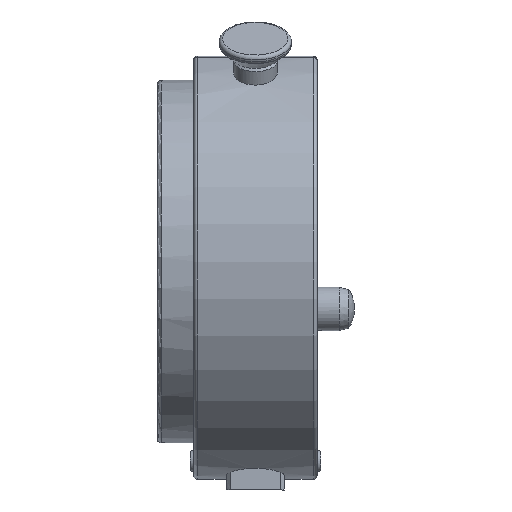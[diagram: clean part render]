
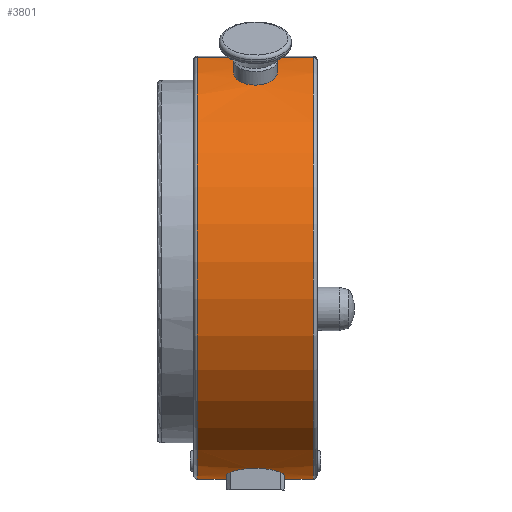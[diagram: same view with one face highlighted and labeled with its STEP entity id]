
A CAD part, left-side view. The second image highlights one B-rep face of the part: STEP entity #3801.
In plain terms, the highlighted cylindrical face has radius 30 mm (diameter 60 mm), a partial arc.
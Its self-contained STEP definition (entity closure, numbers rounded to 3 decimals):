
#158=CARTESIAN_POINT('',(-12.327,16.5,27.351));
#159=VERTEX_POINT('',#158);
#160=CARTESIAN_POINT('',(-12.327,16.5,27.351));
#161=CARTESIAN_POINT('',(-12.327,16.123,27.351));
#162=CARTESIAN_POINT('',(-12.396,15.721,27.32));
#163=CARTESIAN_POINT('',(-12.675,14.982,27.191));
#164=CARTESIAN_POINT('',(-12.885,14.645,27.093));
#165=CARTESIAN_POINT('',(-13.365,14.112,26.86));
#166=CARTESIAN_POINT('',(-13.667,13.882,26.708));
#167=CARTESIAN_POINT('',(-14.322,13.575,26.363));
#168=CARTESIAN_POINT('',(-14.674,13.5,26.169));
#169=CARTESIAN_POINT('',(-15.326,13.5,25.792));
#170=CARTESIAN_POINT('',(-15.671,13.575,25.585));
#171=CARTESIAN_POINT('',(-16.296,13.882,25.19));
#172=CARTESIAN_POINT('',(-16.578,14.112,25.005));
#173=CARTESIAN_POINT('',(-17.021,14.645,24.706));
#174=CARTESIAN_POINT('',(-17.211,14.982,24.573));
#175=CARTESIAN_POINT('',(-17.462,15.721,24.395));
#176=CARTESIAN_POINT('',(-17.523,16.123,24.351));
#177=CARTESIAN_POINT('',(-17.523,16.877,24.351));
#178=CARTESIAN_POINT('',(-17.462,17.279,24.395));
#179=CARTESIAN_POINT('',(-17.211,18.018,24.573));
#180=CARTESIAN_POINT('',(-17.021,18.355,24.706));
#181=CARTESIAN_POINT('',(-16.578,18.888,25.005));
#182=CARTESIAN_POINT('',(-16.296,19.118,25.19));
#183=CARTESIAN_POINT('',(-15.671,19.425,25.585));
#184=CARTESIAN_POINT('',(-15.326,19.5,25.792));
#185=CARTESIAN_POINT('',(-14.674,19.5,26.169));
#186=CARTESIAN_POINT('',(-14.322,19.425,26.363));
#187=CARTESIAN_POINT('',(-13.667,19.118,26.708));
#188=CARTESIAN_POINT('',(-13.365,18.888,26.86));
#189=CARTESIAN_POINT('',(-12.885,18.355,27.093));
#190=CARTESIAN_POINT('',(-12.675,18.018,27.191));
#191=CARTESIAN_POINT('',(-12.396,17.279,27.32));
#192=CARTESIAN_POINT('',(-12.327,16.877,27.351));
#193=CARTESIAN_POINT('',(-12.327,16.5,27.351));
#194=B_SPLINE_CURVE_WITH_KNOTS('',3,(#160,#161,#162,#163,#164,#165,#166,#167,#168,#169,#170,#171,#172,#173,#174,#175,#176,#177,#178,#179,#180,#181,#182,#183,#184,#185,#186,#187,#188,#189,#190,#191,#192,#193),.UNSPECIFIED.,.T.,.U.,(4,2,2,2,2,2,2,2,2,2,2,2,2,2,2,2,4),(0.0,0.113,0.226,0.339,0.452,0.565,0.679,0.792,0.905,1.018,1.131,1.244,1.357,1.47,1.583,1.696,1.809),.UNSPECIFIED.);
#195=EDGE_CURVE('',#159,#159,#194,.T.);
#2229=CARTESIAN_POINT('',(-3.4,20.5,-29.807));
#2230=VERTEX_POINT('',#2229);
#2338=CARTESIAN_POINT('',(-3.4,12.5,-29.807));
#2339=VERTEX_POINT('',#2338);
#2472=CARTESIAN_POINT('',(0.,12.5,-30.));
#2473=VERTEX_POINT('',#2472);
#2474=CARTESIAN_POINT('',(0.,12.5,0.));
#2475=DIRECTION('',(0.,1.,0.));
#2476=DIRECTION('',(-0.342,0.,0.94));
#2477=AXIS2_PLACEMENT_3D('',#2474,#2475,#2476);
#2478=CIRCLE('',#2477,30.);
#2479=EDGE_CURVE('',#2473,#2339,#2478,.T.);
#3275=CARTESIAN_POINT('',(0.,20.5,-30.));
#3276=VERTEX_POINT('',#3275);
#3277=CARTESIAN_POINT('',(0.,20.5,0.));
#3278=DIRECTION('',(0.,-1.,0.));
#3279=DIRECTION('',(-0.342,0.,0.94));
#3280=AXIS2_PLACEMENT_3D('',#3277,#3278,#3279);
#3281=CIRCLE('',#3280,30.);
#3282=EDGE_CURVE('',#2230,#3276,#3281,.T.);
#3313=CARTESIAN_POINT('',(0.,8.5,-30.));
#3314=VERTEX_POINT('',#3313);
#3324=CARTESIAN_POINT('',(0.,8.5,-30.));
#3325=DIRECTION('',(0.0,1.0,0.0));
#3326=VECTOR('',#3325,4.0);
#3327=LINE('',#3324,#3326);
#3328=EDGE_CURVE('',#3314,#2473,#3327,.T.);
#3397=CARTESIAN_POINT('',(0.,24.5,-30.));
#3398=VERTEX_POINT('',#3397);
#3413=CARTESIAN_POINT('',(0.,20.5,-30.));
#3414=DIRECTION('',(0.0,1.0,0.0));
#3415=VECTOR('',#3414,4.0);
#3416=LINE('',#3413,#3415);
#3417=EDGE_CURVE('',#3276,#3398,#3416,.T.);
#3428=CARTESIAN_POINT('',(-5.455,12.5,-29.5));
#3429=VERTEX_POINT('',#3428);
#3430=CARTESIAN_POINT('',(0.,12.5,0.));
#3431=DIRECTION('',(0.,-1.,0.));
#3432=DIRECTION('',(-0.342,0.,0.94));
#3433=AXIS2_PLACEMENT_3D('',#3430,#3431,#3432);
#3434=CIRCLE('',#3433,30.);
#3435=EDGE_CURVE('',#3429,#2339,#3434,.T.);
#3485=CARTESIAN_POINT('',(-5.455,20.5,-29.5));
#3486=VERTEX_POINT('',#3485);
#3487=CARTESIAN_POINT('',(-5.455,20.5,-29.5));
#3488=CARTESIAN_POINT('',(-5.949,20.5,-29.409));
#3489=CARTESIAN_POINT('',(-6.474,20.399,-29.297));
#3490=CARTESIAN_POINT('',(-7.433,19.991,-29.069));
#3491=CARTESIAN_POINT('',(-7.869,19.683,-28.952));
#3492=CARTESIAN_POINT('',(-8.554,18.974,-28.757));
#3493=CARTESIAN_POINT('',(-8.85,18.524,-28.666));
#3494=CARTESIAN_POINT('',(-9.243,17.539,-28.541));
#3495=CARTESIAN_POINT('',(-9.339,17.003,-28.509));
#3496=CARTESIAN_POINT('',(-9.339,16.5,-28.509));
#3497=CARTESIAN_POINT('',(-9.339,15.997,-28.509));
#3498=CARTESIAN_POINT('',(-9.243,15.461,-28.541));
#3499=CARTESIAN_POINT('',(-8.85,14.476,-28.666));
#3500=CARTESIAN_POINT('',(-8.554,14.026,-28.757));
#3501=CARTESIAN_POINT('',(-7.869,13.317,-28.952));
#3502=CARTESIAN_POINT('',(-7.433,13.009,-29.069));
#3503=CARTESIAN_POINT('',(-6.474,12.601,-29.297));
#3504=CARTESIAN_POINT('',(-5.949,12.5,-29.409));
#3505=CARTESIAN_POINT('',(-5.455,12.5,-29.5));
#3506=B_SPLINE_CURVE_WITH_KNOTS('',3,(#3487,#3488,#3489,#3490,#3491,#3492,#3493,#3494,#3495,#3496,#3497,#3498,#3499,#3500,#3501,#3502,#3503,#3504,#3505),.UNSPECIFIED.,.F.,.U.,(4,2,2,2,3,2,2,2,4),(1.81,1.961,2.112,2.263,2.414,2.565,2.716,2.866,3.017),.UNSPECIFIED.);
#3507=EDGE_CURVE('',#3486,#3429,#3506,.T.);
#3652=CARTESIAN_POINT('',(-10.261,8.5,28.191));
#3653=VERTEX_POINT('',#3652);
#3661=CARTESIAN_POINT('',(0.,8.5,0.));
#3662=DIRECTION('',(0.,-1.0,0.));
#3663=DIRECTION('',(-0.985,0.,-0.174));
#3664=AXIS2_PLACEMENT_3D('',#3661,#3662,#3663);
#3665=CIRCLE('',#3664,30.);
#3666=EDGE_CURVE('',#3653,#3314,#3665,.T.);
#3762=CARTESIAN_POINT('',(0.,8.0,0.));
#3763=DIRECTION('',(0.,1.0,0.));
#3764=DIRECTION('',(-0.342,0.,0.94));
#3765=AXIS2_PLACEMENT_3D('',#3762,#3763,#3764);
#3766=CYLINDRICAL_SURFACE('',#3765,30.);
#3767=CARTESIAN_POINT('',(-10.261,24.5,28.191));
#3768=VERTEX_POINT('',#3767);
#3769=CARTESIAN_POINT('',(0.,24.5,0.));
#3770=DIRECTION('',(0.,1.0,0.));
#3771=DIRECTION('',(-0.985,0.,-0.174));
#3772=AXIS2_PLACEMENT_3D('',#3769,#3770,#3771);
#3773=CIRCLE('',#3772,30.);
#3774=EDGE_CURVE('',#3398,#3768,#3773,.T.);
#3775=ORIENTED_EDGE('',*,*,#3774,.F.);
#3776=ORIENTED_EDGE('',*,*,#3417,.F.);
#3777=ORIENTED_EDGE('',*,*,#3282,.F.);
#3778=CARTESIAN_POINT('',(0.,20.5,0.));
#3779=DIRECTION('',(0.,1.,0.));
#3780=DIRECTION('',(-0.342,0.,0.94));
#3781=AXIS2_PLACEMENT_3D('',#3778,#3779,#3780);
#3782=CIRCLE('',#3781,30.);
#3783=EDGE_CURVE('',#2230,#3486,#3782,.T.);
#3784=ORIENTED_EDGE('',*,*,#3783,.T.);
#3785=ORIENTED_EDGE('',*,*,#3507,.T.);
#3786=ORIENTED_EDGE('',*,*,#3435,.T.);
#3787=ORIENTED_EDGE('',*,*,#2479,.F.);
#3788=ORIENTED_EDGE('',*,*,#3328,.F.);
#3789=ORIENTED_EDGE('',*,*,#3666,.F.);
#3790=CARTESIAN_POINT('',(-10.261,24.5,28.191));
#3791=DIRECTION('',(0.0,-1.0,0.0));
#3792=VECTOR('',#3791,16.0);
#3793=LINE('',#3790,#3792);
#3794=EDGE_CURVE('',#3768,#3653,#3793,.T.);
#3795=ORIENTED_EDGE('',*,*,#3794,.F.);
#3796=EDGE_LOOP('',(#3775,#3776,#3777,#3784,#3785,#3786,#3787,#3788,#3789,#3795));
#3797=FACE_OUTER_BOUND('',#3796,.T.);
#3798=ORIENTED_EDGE('',*,*,#195,.T.);
#3799=EDGE_LOOP('',(#3798));
#3800=FACE_BOUND('',#3799,.T.);
#3801=ADVANCED_FACE('',(#3797,#3800),#3766,.T.);
